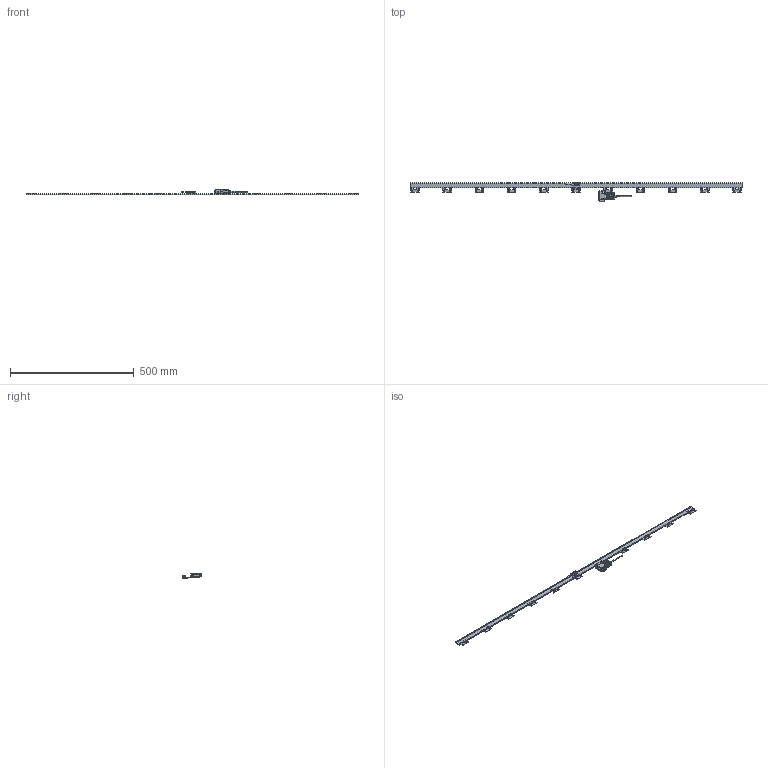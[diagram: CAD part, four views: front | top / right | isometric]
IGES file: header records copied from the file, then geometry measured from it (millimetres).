
Start section: Elysium IGES Interface
Global section: file name: 79H\\Utsu119s\kiyo_cad\data\3D\ST46EZA\HP掲載用_201708\ST46EZA-A\ST46EZA-1300A.igs; native system: Creo Elements/Direct Modeling 18.1B  29-Sep-2012; preprocessor: Creo Element/Direct IGES_3D V2.2; author: Unknown; organization: Unknown; date: 20170912.150609; units: millimetre
Bounding box: 1340 x 78.25 x 21.95 mm (x, y, z)
Volume: 146940.3 mm3; surface area: 98633.4 mm2
Topology: 3 solids, 8 shells, 2775 faces, 7453 edges, 4854 vertices
Faces by surface type: bspline 2775
